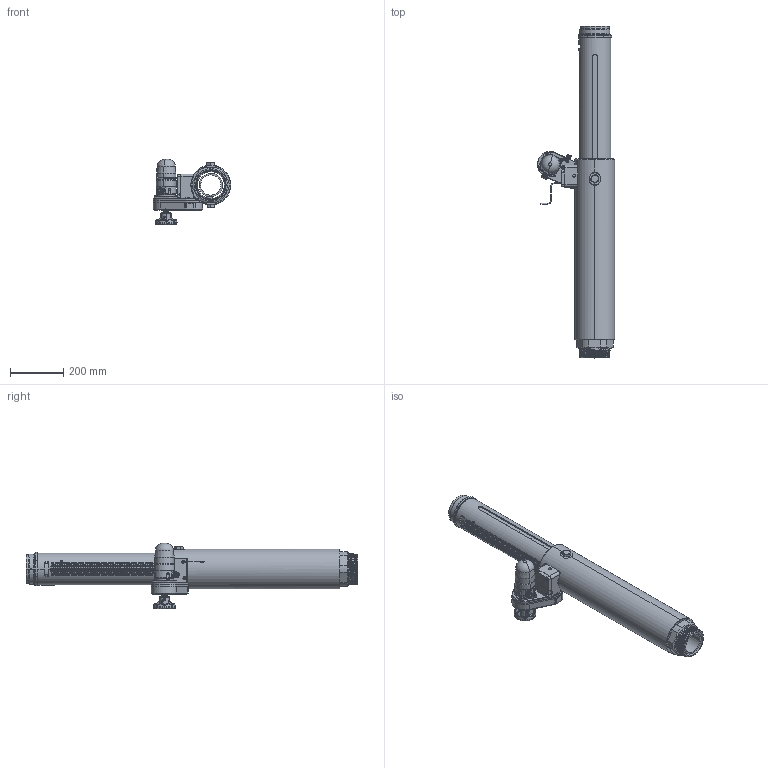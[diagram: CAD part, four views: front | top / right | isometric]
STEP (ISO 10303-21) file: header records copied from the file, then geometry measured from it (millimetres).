
FILE_DESCRIPTION (( 'STEP AP203' ), '1' );
FILE_NAME ('XGA48PP-RP_Extended.STEP', '2014-07-03T15:09:38', ( '' ), ( '' ), 'SwSTEP 2.0', 'SolidWorks 2014', '' );
FILE_SCHEMA (( 'CONFIG_CONTROL_DESIGN' ));
Products named in the file (1): XGA48PP-RP_Extended
Bounding box: 291.73 x 1250.06 x 245.81 mm (x, y, z)
Surface area: 1091041 mm2 (no closed solid volume)
Topology: 0 solids, 44 shells, 828 faces, 3155 edges, 2275 vertices
Faces by surface type: plane 384, cylinder 235, cone 96, bspline 56, torus 54, sphere 3
Entity records: 46984 total; most frequent: CARTESIAN_POINT 22799, ORIENTED_EDGE 4996, DIRECTION 4453, EDGE_CURVE 3147, VERTEX_POINT 2274, AXIS2_PLACEMENT_3D 1522, VECTOR 1409, LINE 1409
